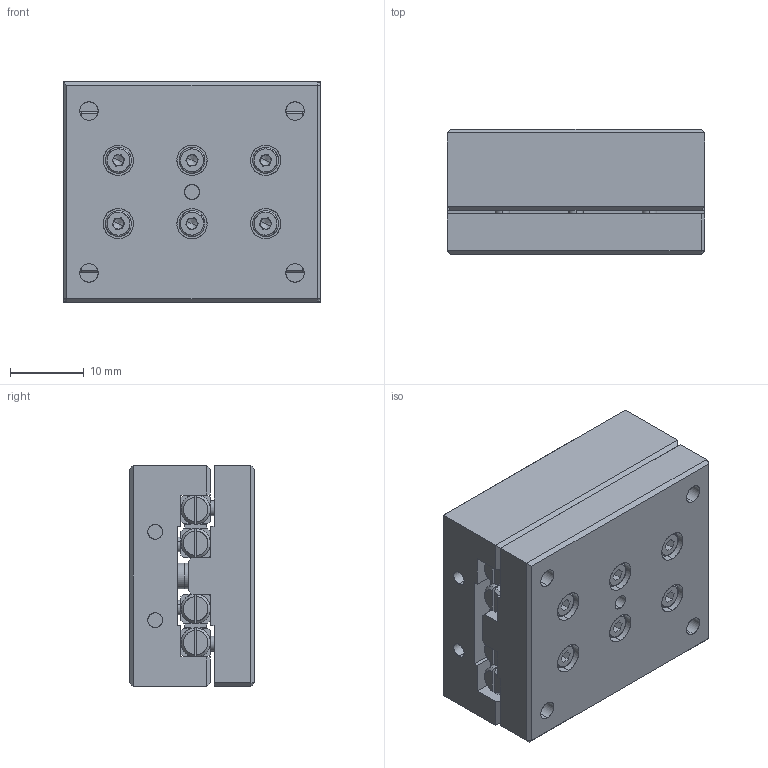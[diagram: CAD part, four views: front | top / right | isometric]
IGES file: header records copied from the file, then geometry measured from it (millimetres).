
Start section: SolidWorks IGES file using analytic representation for surfaces
Global section: file name: C:\Documents and Settings\IanO.IANOHOME\My Documents\Wix and Auto CAD Work\CAD Models\Parametric Models\Auto Models\L1020\L1020_IGES\L1020.030-035.igs; native system: SolidWorks 2009; preprocessor: SolidWorks 2009; author: IanO; date: 110922.161904; units: millimetre
Bounding box: 35 x 17 x 30 mm (x, y, z)
Surface area: 12099.7 mm2 (no closed solid volume)
Topology: 0 solids, 0 shells, 960 faces, 11332 edges, 11302 vertices
Faces by surface type: bspline 618, revolution 342
